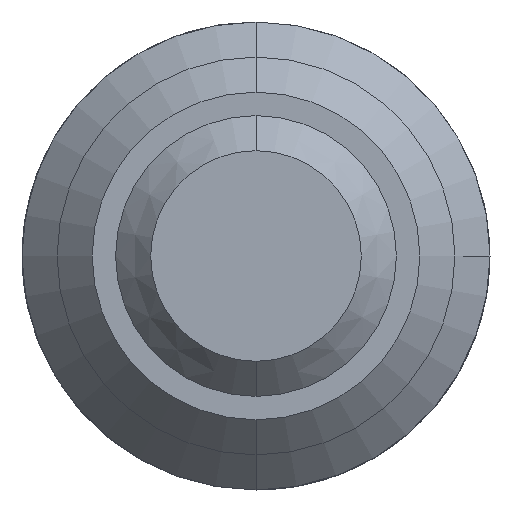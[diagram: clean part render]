
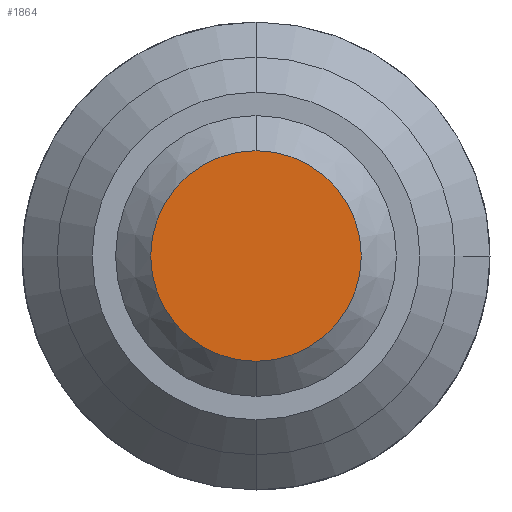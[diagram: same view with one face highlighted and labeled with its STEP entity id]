
A CAD part, front view. The second image highlights one B-rep face of the part: STEP entity #1864.
In plain terms, the highlighted planar face has unit normal (0, -1, 0).
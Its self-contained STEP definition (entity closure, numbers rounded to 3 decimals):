
#183 = DIRECTION ( 'NONE',  ( 0., 0., 1. ) ) ;
#286 = CARTESIAN_POINT ( 'NONE',  ( 0., 0., 0. ) ) ;
#1023 = DIRECTION ( 'NONE',  ( 0., -1., 0. ) ) ;
#1123 = CARTESIAN_POINT ( 'NONE',  ( 0., 0., 0.9 ) ) ;
#1341 = CARTESIAN_POINT ( 'NONE',  ( 0., 0., -0.9 ) ) ;
#1758 = DIRECTION ( 'NONE',  ( 0., -1., 0. ) ) ;
#1816 = AXIS2_PLACEMENT_3D ( 'NONE', #286, #1758, #183 ) ;
#1864 = ADVANCED_FACE ( 'NONE', ( #5440 ), #3368, .F. ) ;
#1892 = DIRECTION ( 'NONE',  ( 0., 0., 1. ) ) ;
#1915 = EDGE_CURVE ( 'NONE', #2758, #4280, #4368, .T. ) ;
#2426 = EDGE_LOOP ( 'NONE', ( #3349, #2794 ) ) ;
#2460 = DIRECTION ( 'NONE',  ( 0., 0., 1. ) ) ;
#2758 = VERTEX_POINT ( 'NONE', #1341 ) ;
#2794 = ORIENTED_EDGE ( 'NONE', *, *, #1915, .T. ) ;
#3349 = ORIENTED_EDGE ( 'NONE', *, *, #6453, .T. ) ;
#3368 = PLANE ( 'NONE',  #3717 ) ;
#3717 = AXIS2_PLACEMENT_3D ( 'NONE', #5474, #3838, #1892 ) ;
#3838 = DIRECTION ( 'NONE',  ( 0., 1., 0. ) ) ;
#4071 = CARTESIAN_POINT ( 'NONE',  ( 0., 0., 0. ) ) ;
#4280 = VERTEX_POINT ( 'NONE', #1123 ) ;
#4368 = CIRCLE ( 'NONE', #4579, 0.9 ) ;
#4579 = AXIS2_PLACEMENT_3D ( 'NONE', #4071, #1023, #2460 ) ;
#4707 = CIRCLE ( 'NONE', #1816, 0.9 ) ;
#5440 = FACE_OUTER_BOUND ( 'NONE', #2426, .T. ) ;
#5474 = CARTESIAN_POINT ( 'NONE',  ( 0., 0., 0. ) ) ;
#6453 = EDGE_CURVE ( 'NONE', #4280, #2758, #4707, .T. ) ;
